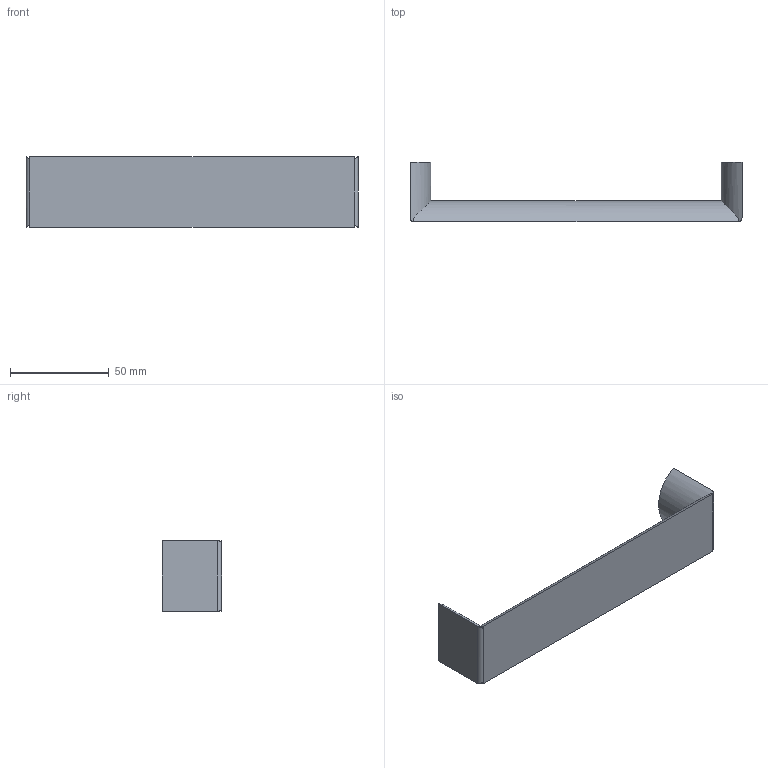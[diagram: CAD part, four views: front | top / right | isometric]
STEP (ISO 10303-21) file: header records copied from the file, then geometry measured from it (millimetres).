
FILE_DESCRIPTION( ( '' ), '1' );
FILE_NAME( 'C:/Documents and Settings/Sachin/Desktop/Sheet 10_1/stp/9113509.stp', '2013-10-22T11:32:43', ( '' ), ( '' ), ' ', ' ', ' ' );
FILE_SCHEMA( ( 'CONFIG_CONTROL_DESIGN' ) );
Length unit declared in the file: millimetre
Products named in the file (1): 1
Bounding box: 168 x 30 x 35.57 mm (x, y, z)
Volume: 55706 mm3; surface area: 17466 mm2
Topology: 1 solids, 1 shells, 20 faces, 48 edges, 32 vertices
Faces by surface type: plane 11, cylinder 9
Entity records: 696 total; most frequent: CARTESIAN_POINT 181, DIRECTION 98, ORIENTED_EDGE 96, EDGE_CURVE 48, AXIS2_PLACEMENT_3D 37, VERTEX_POINT 32, LINE 24, VECTOR 24
